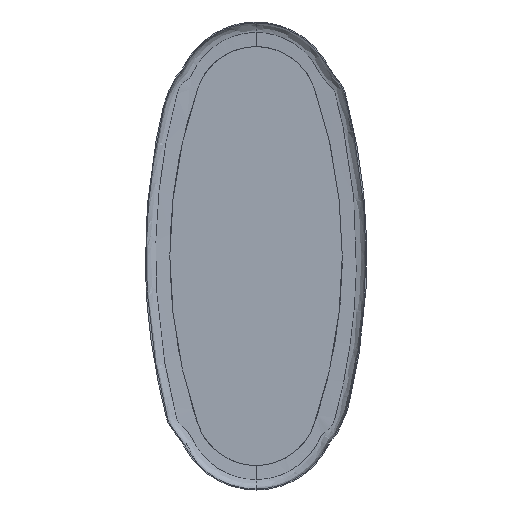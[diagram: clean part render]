
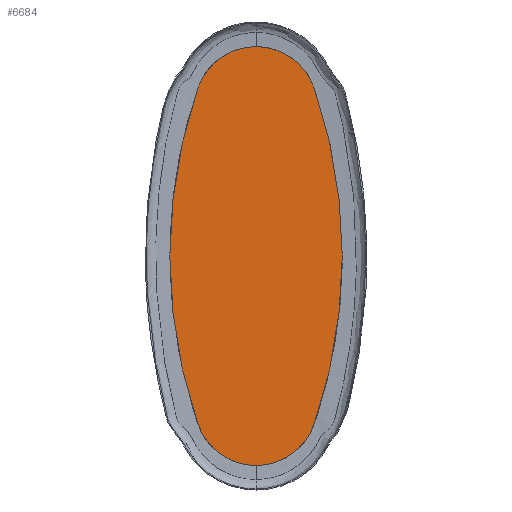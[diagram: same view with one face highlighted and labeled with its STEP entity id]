
A CAD part, top view. The second image highlights one B-rep face of the part: STEP entity #6684.
In plain terms, the highlighted planar face has unit normal (0, 0, 1) as drawn and (0, 1, 0) by its records, which use the part's own axes.
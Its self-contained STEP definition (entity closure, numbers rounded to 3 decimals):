
#98 = VERTEX_POINT ( 'NONE', #4136 ) ;
#901 = CARTESIAN_POINT ( 'NONE',  ( 0., 9., 600. ) ) ;
#1155 = ORIENTED_EDGE ( 'NONE', *, *, #10568, .T. ) ;
#1160 = DIRECTION ( 'NONE',  ( 0., 1., 0. ) ) ;
#1218 = DIRECTION ( 'NONE',  ( 0., 0., 1. ) ) ;
#1301 = ORIENTED_EDGE ( 'NONE', *, *, #4028, .T. ) ;
#1587 = AXIS2_PLACEMENT_3D ( 'NONE', #7415, #4810, #9894 ) ;
#2171 = CIRCLE ( 'NONE', #6956, 250. ) ;
#2347 = AXIS2_PLACEMENT_3D ( 'NONE', #6435, #5637, #10829 ) ;
#2741 = DIRECTION ( 'NONE',  ( 0., 1., 0. ) ) ;
#3109 = ORIENTED_EDGE ( 'NONE', *, *, #3808, .T. ) ;
#3305 = ORIENTED_EDGE ( 'NONE', *, *, #5980, .T. ) ;
#3808 = EDGE_CURVE ( 'NONE', #8182, #10217, #9341, .T. ) ;
#4028 = EDGE_CURVE ( 'NONE', #10859, #6104, #6568, .T. ) ;
#4136 = CARTESIAN_POINT ( 'NONE',  ( 236.486, 9., 681.081 ) ) ;
#4193 = AXIS2_PLACEMENT_3D ( 'NONE', #11290, #6040, #7015 ) ;
#4526 = DIRECTION ( 'NONE',  ( 0., 0., 1. ) ) ;
#4778 = ORIENTED_EDGE ( 'NONE', *, *, #6474, .T. ) ;
#4810 = DIRECTION ( 'NONE',  ( 0., 1., 0. ) ) ;
#5154 = CARTESIAN_POINT ( 'NONE',  ( -236.486, 9., 681.081 ) ) ;
#5307 = CARTESIAN_POINT ( 'NONE',  ( 0., 9., -850. ) ) ;
#5338 = CARTESIAN_POINT ( 'NONE',  ( 236.486, 9., -681.081 ) ) ;
#5463 = AXIS2_PLACEMENT_3D ( 'NONE', #7128, #8116, #4526 ) ;
#5637 = DIRECTION ( 'NONE',  ( 0., 1., 0. ) ) ;
#5736 = CARTESIAN_POINT ( 'NONE',  ( -236.486, 9., -681.081 ) ) ;
#5935 = EDGE_LOOP ( 'NONE', ( #4778, #1155, #1301, #3305, #3109 ) ) ;
#5980 = EDGE_CURVE ( 'NONE', #6104, #8182, #9544, .T. ) ;
#6040 = DIRECTION ( 'NONE',  ( 0., 1., 0. ) ) ;
#6104 = VERTEX_POINT ( 'NONE', #5307 ) ;
#6264 = DIRECTION ( 'NONE',  ( 0., 0., 1. ) ) ;
#6351 = CARTESIAN_POINT ( 'NONE',  ( -1750., 9., 0. ) ) ;
#6435 = CARTESIAN_POINT ( 'NONE',  ( -875., 9., 300. ) ) ;
#6474 = EDGE_CURVE ( 'NONE', #10217, #98, #2171, .T. ) ;
#6545 = FACE_OUTER_BOUND ( 'NONE', #5935, .T. ) ;
#6568 = CIRCLE ( 'NONE', #1587, 250. ) ;
#6684 = ADVANCED_FACE ( 'NONE', ( #6545 ), #10768, .T. ) ;
#6956 = AXIS2_PLACEMENT_3D ( 'NONE', #901, #2741, #6264 ) ;
#7015 = DIRECTION ( 'NONE',  ( 0., 0., 1. ) ) ;
#7128 = CARTESIAN_POINT ( 'NONE',  ( 1750., 9., 0. ) ) ;
#7415 = CARTESIAN_POINT ( 'NONE',  ( 0., 9., -600. ) ) ;
#8116 = DIRECTION ( 'NONE',  ( 0., 1., 0. ) ) ;
#8182 = VERTEX_POINT ( 'NONE', #5736 ) ;
#8473 = CIRCLE ( 'NONE', #10119, 2100. ) ;
#9341 = CIRCLE ( 'NONE', #5463, 2100. ) ;
#9544 = CIRCLE ( 'NONE', #4193, 250. ) ;
#9894 = DIRECTION ( 'NONE',  ( 0., 0., 1. ) ) ;
#10119 = AXIS2_PLACEMENT_3D ( 'NONE', #6351, #1160, #1218 ) ;
#10217 = VERTEX_POINT ( 'NONE', #5154 ) ;
#10568 = EDGE_CURVE ( 'NONE', #98, #10859, #8473, .T. ) ;
#10768 = PLANE ( 'NONE',  #2347 ) ;
#10829 = DIRECTION ( 'NONE',  ( 0., 0., 1. ) ) ;
#10859 = VERTEX_POINT ( 'NONE', #5338 ) ;
#11290 = CARTESIAN_POINT ( 'NONE',  ( 0., 9., -600. ) ) ;
